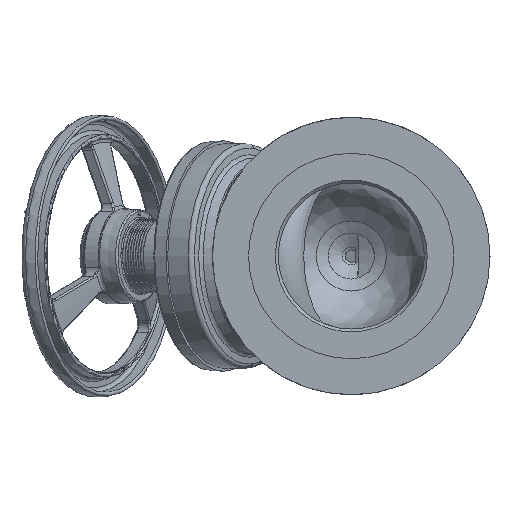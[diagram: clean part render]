
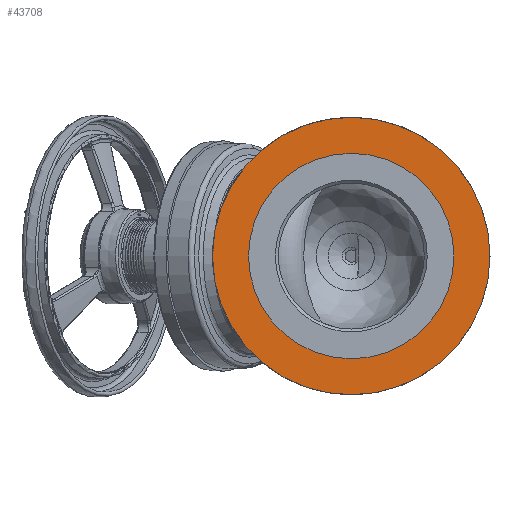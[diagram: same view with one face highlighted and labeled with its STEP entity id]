
A CAD part, left-side view. The second image highlights one B-rep face of the part: STEP entity #43708.
In plain terms, the highlighted planar face has unit normal (-1, 0, 0).
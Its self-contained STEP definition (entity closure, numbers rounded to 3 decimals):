
#38170=CARTESIAN_POINT('',(-477.,-142.5,0.0));
#38171=VERTEX_POINT('',#38170);
#38172=CARTESIAN_POINT('',(-477.,0.,0.0));
#38173=DIRECTION('',(-1.0,0.0,0.0));
#38174=DIRECTION('',(0.0,-1.0,0.0));
#38175=AXIS2_PLACEMENT_3D('',#38172,#38173,#38174);
#38176=CIRCLE('',#38175,142.5);
#38177=EDGE_CURVE('',#38171,#38171,#38176,.T.);
#43689=CARTESIAN_POINT('',(-477.,-124.,0.0));
#43690=DIRECTION('',(-1.0,0.0,0.0));
#43691=DIRECTION('',(0.0,0.0,1.0));
#43692=AXIS2_PLACEMENT_3D('',#43689,#43690,#43691);
#43693=PLANE('',#43692);
#43694=ORIENTED_EDGE('',*,*,#38177,.T.);
#43695=EDGE_LOOP('',(#43694));
#43696=FACE_OUTER_BOUND('',#43695,.T.);
#43697=CARTESIAN_POINT('',(-477.,-105.5,0.0));
#43698=VERTEX_POINT('',#43697);
#43699=CARTESIAN_POINT('',(-477.,0.,0.0));
#43700=DIRECTION('',(-1.0,0.0,0.0));
#43701=DIRECTION('',(0.0,-1.0,0.0));
#43702=AXIS2_PLACEMENT_3D('',#43699,#43700,#43701);
#43703=CIRCLE('',#43702,105.5);
#43704=EDGE_CURVE('',#43698,#43698,#43703,.T.);
#43705=ORIENTED_EDGE('',*,*,#43704,.F.);
#43706=EDGE_LOOP('',(#43705));
#43707=FACE_BOUND('',#43706,.T.);
#43708=ADVANCED_FACE('',(#43696,#43707),#43693,.T.);
